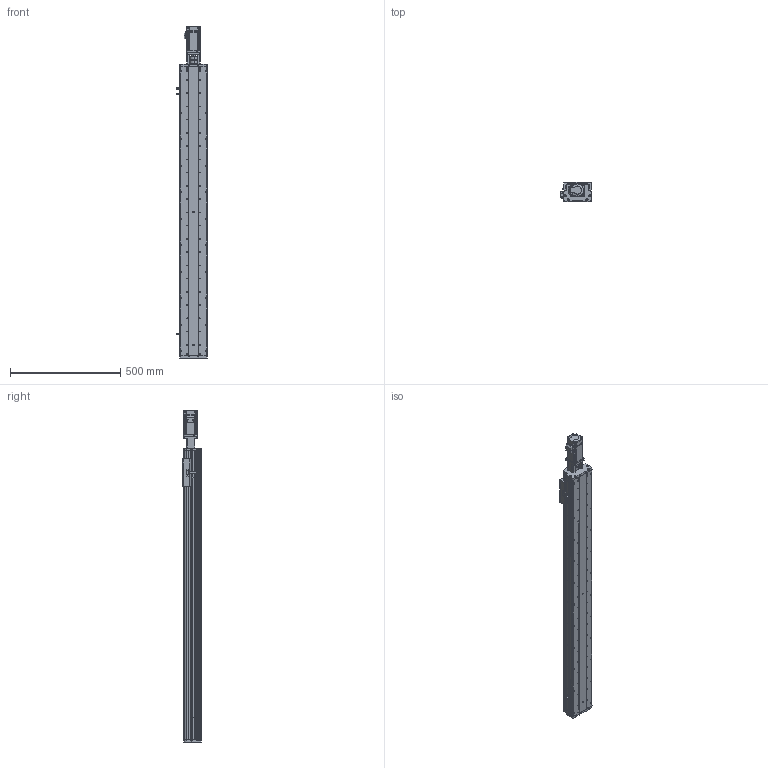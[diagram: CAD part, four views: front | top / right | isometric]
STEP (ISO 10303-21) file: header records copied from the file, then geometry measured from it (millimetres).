
FILE_DESCRIPTION (( 'STEP AP214' ), '1' );
FILE_NAME ('KSD125S-S1100-MT-CM.STEP', '2017-08-07T06:53:44', ( '微软用户' ), ( '微软中国' ), 'SwSTEP 2.0', 'SolidWorks 2014', '' );
FILE_SCHEMA (( 'AUTOMOTIVE_DESIGN' ));
Length unit declared in the file: millimetre
Products named in the file (13): U倰嫖萇EEㄜSX672; ヶ傷啣-125遵耀郪; KSD125S-1100俴最佪裝滅鳥裔; KSD125S-1100俴最佪裝菁啣; CS-34X32-10X14; 125-帣傷啣1; KSD125S-S1100-MT-CM; KSD125-賑雄釱1; MHMD042G1CA_2_03; 100遵鎮湛假蚾啣1 ; 拸萇儂釱滅袉菜; 覜茼え68遵圉猾敕; U倰嫖萇假蚾璃
Assembly tree (16 placements, depth 2):
  KSD125S-S1100-MT-CM
    125-帣傷啣1
    CS-34X32-10X14
    ヶ傷啣-125遵耀郪
    U倰嫖萇EEㄜSX672  x3
    U倰嫖萇假蚾璃  x3
    覜茼え68遵圉猾敕
    拸萇儂釱滅袉菜
    100遵鎮湛假蚾啣1 
    MHMD042G1CA_2_03
    KSD125-賑雄釱1
    KSD125S-1100俴最佪裝菁啣
    KSD125S-1100俴最佪裝滅鳥裔
Bounding box: 138.7 x 86 x 1503.5 mm (x, y, z)
Volume: 4171701.5 mm3; surface area: 1364010.2 mm2
Topology: 15 solids, 18 shells, 1608 faces, 4646 edges, 3059 vertices
Faces by surface type: cylinder 846, plane 649, cone 91, bspline 22
Entity records: 57139 total; most frequent: CARTESIAN_POINT 11934, DIRECTION 8220, ORIENTED_EDGE 7800, EDGE_CURVE 3978, AXIS2_PLACEMENT_3D 3059, VERTEX_POINT 2651, LINE 2102, VECTOR 2102
